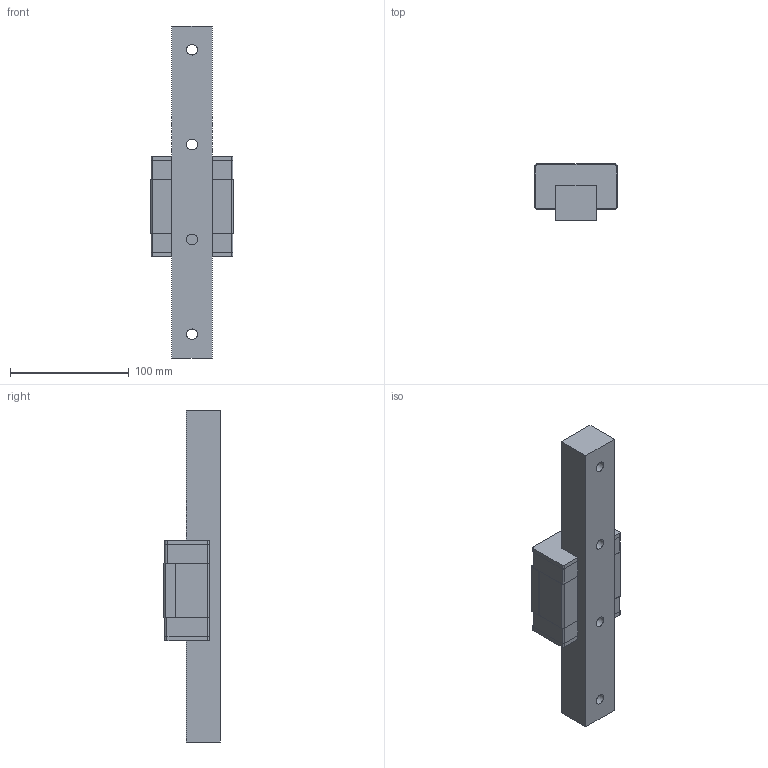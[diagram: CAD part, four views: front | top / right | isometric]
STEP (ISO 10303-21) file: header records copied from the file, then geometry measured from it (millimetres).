
FILE_DESCRIPTION((''),'2;1');
FILE_NAME('E:\PDF郪磁芞\DFS-B\DFS35BS.STP','2018-01-31T12:45:21',(''),(''),'STEP Write','Mastercam V9 ... CNC Software, Inc.','');
FILE_SCHEMA(('CONFIG_CONTROL_DESIGN'));
Length unit declared in the file: millimetre
Bounding box: 70 x 48 x 280 mm (x, y, z)
Volume: 444045.9 mm3; surface area: 83724.4 mm2
Topology: 6 solids, 6 shells, 98 faces, 428 edges, 526 vertices
Faces by surface type: plane 72, cylinder 26
Full cylindrical faces by diameter (mm): 7.3 x2, 9 x4, 14 x4
Entity records: 4080 total; most frequent: CARTESIAN_POINT 886, DIRECTION 698, ORIENTED_EDGE 460, VECTOR 314, LINE 314, EDGE_CURVE 230, AXIS2_PLACEMENT_3D 192, TRIMMED_CURVE 178
